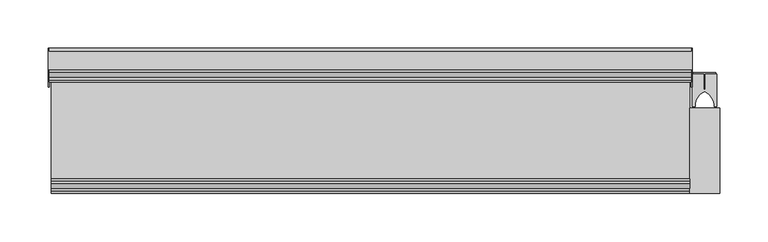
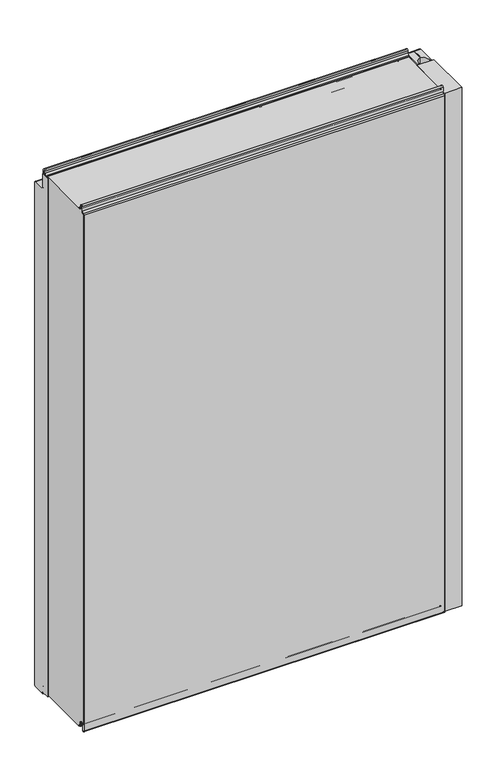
"""IFC4 building model written with IfcOpenShell, lengths in millimetres: plate geometry, Fronttop : Fronttop 150/1000."""

from ifc_helpers import new_model, si_unit, point, frame, frame_2d, origin, origin_with_axes, place, context, project, spatial, polyline, circle_curve, trimmed, segment, composite_curve, outline, extrude, source, transform, mapped, element, save
from ifc_brep_helpers import plane_surface, cylinder_surface, revolved_surface, advanced_brep


def plate_7003c026(model_context):
    return source(origin(), model_context, "Body", "SolidModel", [
        advanced_brep(
        [(-331.5, 124.0, 1008.0), (-331.5, 121.0, 1008.0), (-331.5, 121.0, 1004.0), (-331.5, 117.0, 1000.0), (-331.5, 115.0, 1000.0), (-331.5, 115.0, 1001.0), (-331.5, 117.0, 1001.0), (-331.5, 120.0, 1004.0), (-331.5, 120.0, 1008.0), (-331.5, 125.0, 1008.0), (-331.5, 125.0, 1000.0), (-331.5, 124.0, 1000.0), (331.5, 125.0, 1008.0), (331.5, 120.0, 1008.0), (331.5, 120.0, 1004.0), (331.5, 117.0, 1001.0), (331.5, 115.0, 1001.0), (331.5, 115.0, 1000.0), (331.5, 117.0, 1000.0), (331.5, 121.0, 1004.0), (331.5, 121.0, 1008.0), (331.5, 124.0, 1008.0), (331.5, 124.0, 1000.0), (331.5, 125.0, 1000.0), (-331.5, 117.0, 2.0), (331.5, 117.0, 2.0), (331.5, 115.0, 2.0), (-331.5, 115.0, 2.0), (-331.5, 119.0, 4.0), (331.5, 119.0, 4.0), (-331.5, 119.0, 8.0), (331.5, 119.0, 8.0), (-331.5, 126.0, 8.0), (331.5, 126.0, 8.0), (-331.5, 126.0, 0.0), (331.5, 126.0, 0.0), (-331.5, 129.0, -3.0), (331.5, 129.0, -3.0), (-331.5, 125.0, -3.0), (-332.5, 125.0, -3.0), (-332.5, 147.0, -3.0), (-331.5, 147.0, -3.0), (331.5, 147.0, -3.0), (332.5, 147.0, -3.0), (332.5, 125.0, -3.0), (331.5, 125.0, -3.0), (-331.5, 150.0, 0.0), (331.5, 150.0, 0.0), (-332.5, 150.0, 0.0), (-332.5, 150.0, 969.0), (-331.5, 150.0, 969.0), (331.5, 150.0, 969.0), (332.5, 150.0, 969.0), (332.5, 150.0, 0.0), (-331.5, 147.0, 972.0), (331.5, 147.0, 972.0), (-332.5, 147.0, 972.0), (-332.5, 128.0, 972.0), (-331.5, 128.0, 972.0), (331.5, 128.0, 972.0), (332.5, 128.0, 972.0), (332.5, 147.0, 972.0), (-331.5, 125.0, 975.0), (331.5, 125.0, 975.0), (-332.5, 125.0, 975.0), (-332.5, 125.0, 1000.0), (332.5, 125.0, 1000.0), (332.5, 125.0, 975.0), (-331.5, 124.0, 975.0), (331.5, 124.0, 975.0), (-331.5, 128.0, 971.0), (331.5, 128.0, 971.0), (-331.5, 147.0, 971.0), (331.5, 147.0, 971.0), (-331.5, 149.0, 969.0), (331.5, 149.0, 969.0), (-331.5, 149.0, 0.0), (331.5, 149.0, 0.0), (-331.5, 147.0, -2.0), (331.5, 147.0, -2.0), (-331.5, 129.0, -2.0), (331.5, 129.0, -2.0), (-331.5, 127.0, 0.0), (331.5, 127.0, 0.0), (-331.5, 127.0, 8.0), (331.5, 127.0, 8.0), (-331.5, 118.0, 8.0), (331.5, 118.0, 8.0), (-331.5, 118.0, 4.0), (331.5, 118.0, 4.0), (-331.5, 117.0, 3.0), (331.5, 117.0, 3.0), (-331.5, 115.0, 3.0), (331.5, 115.0, 3.0), (332.5, 110.0, 1000.0), (332.5, 110.0, 0.0), (332.5, 125.0, 0.0), (331.5, 125.0, 0.0), (331.5, 110.0, 0.0), (331.5, 110.0, 1000.0), (-332.5, 125.0, 0.0), (-332.5, 110.0, 0.0), (-332.5, 110.0, 1000.0), (-331.5, 110.0, 1000.0), (-331.5, 110.0, 0.0), (-331.5, 125.0, 0.0)],
        [
            (0, 1, circle_curve(frame((-331.5, 122.5, 1008.0), z_axis=(1.0, 0.0, 0.0), x_axis=(0.0, -1.0, 0.0)), 1.5)),
            (1, 2),
            (2, 3, circle_curve(frame((-331.5, 117.0, 1004.0), z_axis=(-1.0, 0.0, 0.0), x_axis=(0.0, -1.0, 0.0)), 4.0)),
            (3, 4),
            (4, 5),
            (5, 6),
            (6, 7, circle_curve(frame((-331.5, 117.0, 1004.0), z_axis=(1.0, 0.0, 0.0), x_axis=(0.0, -1.0, 0.0)), 3.0)),
            (7, 8),
            (8, 9, circle_curve(frame((-331.5, 122.5, 1008.0), z_axis=(-1.0, 0.0, 0.0), x_axis=(0.0, -1.0, 0.0)), 2.5)),
            (9, 10),
            (10, 11),
            (11, 0),
            (12, 13, circle_curve(frame((331.5, 122.5, 1008.0), z_axis=(1.0, 0.0, 0.0), x_axis=(0.0, -1.0, 0.0)), 2.5)),
            (13, 14),
            (14, 15, circle_curve(frame((331.5, 117.0, 1004.0), z_axis=(-1.0, 0.0, 0.0), x_axis=(0.0, -1.0, 0.0)), 3.0)),
            (15, 16),
            (16, 17),
            (17, 18),
            (18, 19, circle_curve(frame((331.5, 117.0, 1004.0), z_axis=(1.0, 0.0, 0.0), x_axis=(0.0, -1.0, 0.0)), 4.0)),
            (19, 20),
            (20, 21, circle_curve(frame((331.5, 122.5, 1008.0), z_axis=(-1.0, 0.0, 0.0), x_axis=(0.0, -1.0, 0.0)), 1.5)),
            (21, 22),
            (22, 23),
            (23, 12),
            (24, 25),
            (25, 26),
            (26, 27),
            (27, 24),
            (24, 28, circle_curve(frame((-331.5, 117.0, 4.0), z_axis=(1.0, 0.0, 0.0), x_axis=(0.0, -1.0, 0.0)), 2.0)),
            (28, 29),
            (29, 25, circle_curve(frame((331.5, 117.0, 4.0), z_axis=(-1.0, 0.0, 0.0), x_axis=(0.0, -1.0, 0.0)), 2.0)),
            (28, 30),
            (30, 31),
            (31, 29),
            (30, 32, circle_curve(frame((-331.5, 122.5, 8.0), z_axis=(-1.0, 0.0, 0.0), x_axis=(0.0, -1.0, 0.0)), 3.5)),
            (32, 33),
            (33, 31, circle_curve(frame((331.5, 122.5, 8.0), z_axis=(1.0, 0.0, 0.0), x_axis=(0.0, -1.0, 0.0)), 3.5)),
            (32, 34),
            (34, 35),
            (35, 33),
            (34, 36, circle_curve(frame((-331.5, 129.0, 0.0), z_axis=(1.0, 0.0, 0.0), x_axis=(0.0, -1.0, 0.0)), 3.0)),
            (36, 37),
            (37, 35, circle_curve(frame((331.5, 129.0, 0.0), z_axis=(-1.0, 0.0, 0.0), x_axis=(0.0, -1.0, 0.0)), 3.0)),
            (36, 38),
            (38, 39),
            (39, 40),
            (40, 41),
            (41, 42),
            (42, 43),
            (43, 44),
            (44, 45),
            (45, 37),
            (41, 46, circle_curve(frame((-331.5, 147.0, 0.0), z_axis=(1.0, 0.0, 0.0), x_axis=(0.0, -1.0, 0.0)), 3.0)),
            (46, 47),
            (47, 42, circle_curve(frame((331.5, 147.0, 0.0), z_axis=(-1.0, 0.0, 0.0), x_axis=(0.0, -1.0, 0.0)), 3.0)),
            (46, 48),
            (48, 49),
            (49, 50),
            (50, 51),
            (51, 52),
            (52, 53),
            (53, 47),
            (50, 54, circle_curve(frame((-331.5, 147.0, 969.0), z_axis=(1.0, 0.0, 0.0), x_axis=(0.0, -1.0, 0.0)), 3.0)),
            (54, 55),
            (55, 51, circle_curve(frame((331.5, 147.0, 969.0), z_axis=(-1.0, 0.0, 0.0), x_axis=(0.0, -1.0, 0.0)), 3.0)),
            (54, 56),
            (56, 57),
            (57, 58),
            (58, 59),
            (59, 60),
            (60, 61),
            (61, 55),
            (58, 62, circle_curve(frame((-331.5, 128.0, 975.0), z_axis=(-1.0, 0.0, 0.0), x_axis=(0.0, -1.0, 0.0)), 3.0)),
            (62, 63),
            (63, 59, circle_curve(frame((331.5, 128.0, 975.0), z_axis=(1.0, 0.0, 0.0), x_axis=(0.0, -1.0, 0.0)), 3.0)),
            (62, 64),
            (64, 65),
            (65, 10),
            (9, 12),
            (23, 66),
            (66, 67),
            (67, 63),
            (8, 13),
            (7, 14),
            (6, 15),
            (5, 16),
            (4, 17),
            (4, 3),
            (3, 18),
            (18, 17),
            (2, 19),
            (1, 20),
            (0, 21),
            (11, 68),
            (68, 69),
            (69, 22),
            (68, 70, circle_curve(frame((-331.5, 128.0, 975.0), z_axis=(1.0, 0.0, 0.0), x_axis=(0.0, -1.0, 0.0)), 4.0)),
            (70, 71),
            (71, 69, circle_curve(frame((331.5, 128.0, 975.0), z_axis=(-1.0, 0.0, 0.0), x_axis=(0.0, -1.0, 0.0)), 4.0)),
            (70, 72),
            (72, 73),
            (73, 71),
            (72, 74, circle_curve(frame((-331.5, 147.0, 969.0), z_axis=(-1.0, 0.0, 0.0), x_axis=(0.0, -1.0, 0.0)), 2.0)),
            (74, 75),
            (75, 73, circle_curve(frame((331.5, 147.0, 969.0), z_axis=(1.0, 0.0, 0.0), x_axis=(0.0, -1.0, 0.0)), 2.0)),
            (74, 76),
            (76, 77),
            (77, 75),
            (76, 78, circle_curve(frame((-331.5, 147.0, 0.0), z_axis=(-1.0, 0.0, 0.0), x_axis=(0.0, -1.0, 0.0)), 2.0)),
            (78, 79),
            (79, 77, circle_curve(frame((331.5, 147.0, 0.0), z_axis=(1.0, 0.0, 0.0), x_axis=(0.0, -1.0, 0.0)), 2.0)),
            (78, 80),
            (80, 81),
            (81, 79),
            (80, 82, circle_curve(frame((-331.5, 129.0, 0.0), z_axis=(-1.0, 0.0, 0.0), x_axis=(0.0, -1.0, 0.0)), 2.0)),
            (82, 83),
            (83, 81, circle_curve(frame((331.5, 129.0, 0.0), z_axis=(1.0, 0.0, 0.0), x_axis=(0.0, -1.0, 0.0)), 2.0)),
            (82, 84),
            (84, 85),
            (85, 83),
            (84, 86, circle_curve(frame((-331.5, 122.5, 8.0), z_axis=(1.0, 0.0, 0.0), x_axis=(0.0, -1.0, 0.0)), 4.5)),
            (86, 87),
            (87, 85, circle_curve(frame((331.5, 122.5, 8.0), z_axis=(-1.0, 0.0, 0.0), x_axis=(0.0, -1.0, 0.0)), 4.5)),
            (86, 88),
            (88, 89),
            (89, 87),
            (88, 90, circle_curve(frame((-331.5, 117.0, 4.0), z_axis=(-1.0, 0.0, 0.0), x_axis=(0.0, -1.0, 0.0)), 1.0)),
            (90, 91),
            (91, 89, circle_curve(frame((331.5, 117.0, 4.0), z_axis=(1.0, 0.0, 0.0), x_axis=(0.0, -1.0, 0.0)), 1.0)),
            (90, 92),
            (92, 93),
            (93, 91),
            (26, 93),
            (92, 27),
            (66, 94),
            (94, 95),
            (95, 96),
            (96, 44),
            (43, 53, circle_curve(frame((332.5, 147.0, 0.0), z_axis=(1.0, 0.0, 0.0), x_axis=(0.0, 1.0, 0.0)), 3.0)),
            (52, 61, circle_curve(frame((332.5, 147.0, 969.0), z_axis=(1.0, 0.0, 0.0), x_axis=(0.0, 1.0, 0.0)), 3.0)),
            (60, 67, circle_curve(frame((332.5, 128.0, 975.0), z_axis=(-1.0, 0.0, 0.0), x_axis=(0.0, 1.0, 0.0)), 3.0)),
            (45, 97),
            (97, 98),
            (98, 99),
            (99, 17),
            (18, 22),
            (99, 94),
            (98, 95),
            (97, 96),
            (64, 57, circle_curve(frame((-332.5, 128.0, 975.0), z_axis=(1.0, 0.0, 0.0), x_axis=(0.0, 1.0, 0.0)), 3.0)),
            (56, 49, circle_curve(frame((-332.5, 147.0, 969.0), z_axis=(-1.0, 0.0, 0.0), x_axis=(0.0, 1.0, 0.0)), 3.0)),
            (48, 40, circle_curve(frame((-332.5, 147.0, 0.0), z_axis=(-1.0, 0.0, 0.0), x_axis=(0.0, 1.0, 0.0)), 3.0)),
            (39, 100),
            (100, 101),
            (101, 102),
            (102, 65),
            (103, 104),
            (104, 105),
            (105, 38),
            (11, 3),
            (4, 103),
            (102, 103),
            (101, 104),
            (100, 105),
        ],
        [
            plane_surface(frame((-331.5, 0.0, 0.0), z_axis=(-1.0, 0.0, 0.0), x_axis=(0.0, 0.0, 1.0))),
            plane_surface(frame((331.5, 0.0, 0.0), z_axis=(1.0, 0.0, 0.0), x_axis=(0.0, 0.0, 1.0))),
            plane_surface(frame((-331.5, 117.0, 2.0), z_axis=(0.0, 0.0, -1.0), x_axis=(1.0, 0.0, 0.0))),
            cylinder_surface(frame((-331.5, 117.0, 4.0), z_axis=(-1.0, 0.0, 0.0), x_axis=(0.0, -1.0, 0.0)), 2.0),
            plane_surface(frame((-331.5, 119.0, 8.0), z_axis=(0.0, 1.0, 0.0), x_axis=(1.0, 0.0, 0.0))),
            revolved_surface(polyline([(331.5, 119.0, 8.0), (-331.5, 119.0, 8.0)]), (-331.5, 122.5, 8.0), (1.0, 0.0, 0.0)),
            plane_surface(frame((-331.5, 126.0, 0.0), z_axis=(0.0, -1.0, 0.0), x_axis=(1.0, 0.0, 0.0))),
            cylinder_surface(frame((-331.5, 129.0, 0.0), z_axis=(-1.0, 0.0, 0.0), x_axis=(0.0, -1.0, 0.0)), 3.0),
            plane_surface(frame((-331.5, 147.0, -3.0), z_axis=(0.0, 0.0, -1.0), x_axis=(1.0, 0.0, 0.0))),
            cylinder_surface(frame((-331.5, 147.0, 0.0), z_axis=(-1.0, 0.0, 0.0), x_axis=(0.0, -1.0, 0.0)), 3.0),
            plane_surface(frame((-331.5, 150.0, 969.0), z_axis=(0.0, 1.0, 0.0), x_axis=(1.0, 0.0, 0.0))),
            cylinder_surface(frame((-331.5, 147.0, 969.0), z_axis=(-1.0, 0.0, 0.0), x_axis=(0.0, -1.0, 0.0)), 3.0),
            plane_surface(frame((-331.5, 128.0, 972.0), z_axis=(0.0, 0.0, 1.0), x_axis=(1.0, 0.0, 0.0))),
            revolved_surface(polyline([(331.5, 125.0, 975.0), (-331.5, 125.0, 975.0)]), (-331.5, 128.0, 975.0), (1.0, 0.0, 0.0)),
            plane_surface(frame((-331.5, 125.0, 1008.0), z_axis=(0.0, 1.0, 0.0), x_axis=(1.0, 0.0, 0.0))),
            cylinder_surface(frame((-331.5, 122.5, 1008.0), z_axis=(-1.0, 0.0, 0.0), x_axis=(0.0, -1.0, 0.0)), 2.5),
            plane_surface(frame((-331.5, 120.0, 1004.0), z_axis=(0.0, -1.0, 0.0), x_axis=(1.0, 0.0, 0.0))),
            revolved_surface(polyline([(331.5, 114.0, 1004.0), (-331.5, 114.0, 1004.0)]), (-331.5, 117.0, 1004.0), (1.0, 0.0, 0.0)),
            plane_surface(frame((-331.5, 115.0, 1001.0), z_axis=(0.0, 0.0, 1.0), x_axis=(1.0, 0.0, 0.0))),
            plane_surface(frame((-331.5, 115.0, 1000.0), z_axis=(0.0, -1.0, 0.0), x_axis=(1.0, 0.0, 0.0))),
            plane_surface(frame((-331.5, 117.0, 1000.0), z_axis=(0.0, 0.0, -1.0), x_axis=(1.0, 0.0, 0.0))),
            cylinder_surface(frame((-331.5, 117.0, 1004.0), z_axis=(-1.0, 0.0, 0.0), x_axis=(0.0, -1.0, 0.0)), 4.0),
            plane_surface(frame((-331.5, 121.0, 1008.0), z_axis=(0.0, 1.0, 0.0), x_axis=(1.0, 0.0, 0.0))),
            revolved_surface(polyline([(331.5, 121.0, 1008.0), (-331.5, 121.0, 1008.0)]), (-331.5, 122.5, 1008.0), (1.0, 0.0, 0.0)),
            plane_surface(frame((-331.5, 124.0, 975.0), z_axis=(0.0, -1.0, 0.0), x_axis=(1.0, 0.0, 0.0))),
            cylinder_surface(frame((-331.5, 128.0, 975.0), z_axis=(-1.0, 0.0, 0.0), x_axis=(0.0, -1.0, 0.0)), 4.0),
            plane_surface(frame((-331.5, 147.0, 971.0), z_axis=(0.0, 0.0, -1.0), x_axis=(1.0, 0.0, 0.0))),
            revolved_surface(polyline([(331.5, 145.0, 969.0), (-331.5, 145.0, 969.0)]), (-331.5, 147.0, 969.0), (1.0, 0.0, 0.0)),
            plane_surface(frame((-331.5, 149.0, 0.0), z_axis=(0.0, -1.0, 0.0), x_axis=(1.0, 0.0, 0.0))),
            revolved_surface(polyline([(331.5, 145.0, 0.0), (-331.5, 145.0, 0.0)]), (-331.5, 147.0, 0.0), (1.0, 0.0, 0.0)),
            plane_surface(frame((-331.5, 129.0, -2.0), z_axis=(0.0, 0.0, 1.0), x_axis=(1.0, 0.0, 0.0))),
            revolved_surface(polyline([(331.5, 127.0, 0.0), (-331.5, 127.0, 0.0)]), (-331.5, 129.0, 0.0), (1.0, 0.0, 0.0)),
            plane_surface(frame((-331.5, 127.0, 8.0), z_axis=(0.0, 1.0, 0.0), x_axis=(1.0, 0.0, 0.0))),
            cylinder_surface(frame((-331.5, 122.5, 8.0), z_axis=(-1.0, 0.0, 0.0), x_axis=(0.0, -1.0, 0.0)), 4.5),
            plane_surface(frame((-331.5, 118.0, 4.0), z_axis=(0.0, -1.0, 0.0), x_axis=(1.0, 0.0, 0.0))),
            revolved_surface(polyline([(331.5, 116.0, 4.0), (-331.5, 116.0, 4.0)]), (-331.5, 117.0, 4.0), (1.0, 0.0, 0.0)),
            plane_surface(frame((-331.5, 115.0, 3.0), z_axis=(0.0, 0.0, 1.0), x_axis=(1.0, 0.0, 0.0))),
            plane_surface(frame((-331.5, 115.0, 2.0), z_axis=(0.0, -1.0, 0.0), x_axis=(1.0, 0.0, 0.0))),
            plane_surface(frame((332.5, 125.0, 1000.0), z_axis=(1.0, 0.0, 0.0), x_axis=(0.0, -1.0, 0.0))),
            plane_surface(frame((331.5, 125.0, 1000.0), z_axis=(-1.0, 0.0, 0.0), x_axis=(0.0, 1.0, 0.0))),
            plane_surface(frame((332.5, 125.0, 1000.0), z_axis=(0.0, 0.0, 1.0), x_axis=(-1.0, 0.0, 0.0))),
            plane_surface(frame((332.5, 110.0, 1000.0), z_axis=(0.0, -1.0, 0.0), x_axis=(-1.0, 0.0, 0.0))),
            plane_surface(frame((332.5, 110.0, 0.0), z_axis=(0.0, 0.0, -1.0), x_axis=(-1.0, 0.0, 0.0))),
            cylinder_surface(frame((331.5, 147.0, 0.0), z_axis=(1.0, 0.0, 0.0), x_axis=(0.0, 1.0, 0.0)), 3.0),
            cylinder_surface(frame((331.5, 147.0, 969.0), z_axis=(1.0, 0.0, 0.0), x_axis=(0.0, 1.0, 0.0)), 3.0),
            revolved_surface(polyline([(331.5, 131.0, 975.0), (332.5, 131.0, 975.0)]), (331.5, 128.0, 975.0), (-1.0, 0.0, 0.0)),
            plane_surface(frame((-332.5, 125.0, 1000.0), z_axis=(-1.0, 0.0, 0.0), x_axis=(0.0, 1.0, 0.0))),
            plane_surface(frame((-331.5, 125.0, 1000.0), z_axis=(1.0, 0.0, 0.0), x_axis=(0.0, -1.0, 0.0))),
            plane_surface(frame((-331.5, 125.0, 1000.0), z_axis=(0.0, 0.0, 1.0), x_axis=(-1.0, 0.0, 0.0))),
            plane_surface(frame((-331.5, 110.0, 1000.0), z_axis=(0.0, -1.0, 0.0), x_axis=(-1.0, 0.0, 0.0))),
            plane_surface(frame((-331.5, 110.0, 0.0), z_axis=(0.0, 0.0, -1.0), x_axis=(-1.0, 0.0, 0.0))),
            cylinder_surface(frame((-332.5, 147.0, 0.0), z_axis=(1.0, 0.0, 0.0), x_axis=(0.0, 1.0, 0.0)), 3.0),
            cylinder_surface(frame((-332.5, 147.0, 969.0), z_axis=(1.0, 0.0, 0.0), x_axis=(0.0, 1.0, 0.0)), 3.0),
            revolved_surface(polyline([(-332.5, 131.0, 975.0), (-331.5, 131.0, 975.0)]), (-332.5, 128.0, 975.0), (-1.0, 0.0, 0.0)),
            plane_surface(frame((332.5, 125.0, 0.0), z_axis=(0.0, -1.0, 0.0), x_axis=(-1.0, 0.0, 0.0))),
            plane_surface(frame((-331.5, 125.0, 0.0), z_axis=(0.0, -1.0, 0.0), x_axis=(-1.0, 0.0, 0.0))),
        ],
        [
            (0, [[1, 2, 3, 4, 5, 6, 7, 8, 9, 10, 11, 12]]),
            (1, [[13, 14, 15, 16, 17, 18, 19, 20, 21, 22, 23, 24]]),
            (2, [[25, 26, 27, 28]]),
            (3, [[-25, 29, 30, 31]]),
            (4, [[-30, 32, 33, 34]]),
            (5, [[-33, 35, 36, 37]]),
            (6, [[-36, 38, 39, 40]]),
            (7, [[-39, 41, 42, 43]]),
            (8, [[-42, 44, 45, 46, 47, 48, 49, 50, 51, 52]]),
            (9, [[-48, 53, 54, 55]]),
            (10, [[-54, 56, 57, 58, 59, 60, 61, 62]]),
            (11, [[-59, 63, 64, 65]]),
            (12, [[-64, 66, 67, 68, 69, 70, 71, 72]]),
            (13, [[-69, 73, 74, 75]]),
            (14, [[-74, 76, 77, 78, -10, 79, -24, 80, 81, 82]]),
            (15, [[-9, 83, -13, -79]]),
            (16, [[-8, 84, -14, -83]]),
            (17, [[-7, 85, -15, -84]]),
            (18, [[-6, 86, -16, -85]]),
            (19, [[-5, 87, -17, -86]]),
            (20, [[-87, 88, 89, 90]]),
            (21, [[-3, 91, -19, -89]]),
            (22, [[-2, 92, -20, -91]]),
            (23, [[-1, 93, -21, -92]]),
            (24, [[-93, -12, 94, 95, 96, -22]]),
            (25, [[-95, 97, 98, 99]]),
            (26, [[-98, 100, 101, 102]]),
            (27, [[-101, 103, 104, 105]]),
            (28, [[-104, 106, 107, 108]]),
            (29, [[-107, 109, 110, 111]]),
            (30, [[-110, 112, 113, 114]]),
            (31, [[-113, 115, 116, 117]]),
            (32, [[-116, 118, 119, 120]]),
            (33, [[-119, 121, 122, 123]]),
            (34, [[-122, 124, 125, 126]]),
            (35, [[-125, 127, 128, 129]]),
            (36, [[-128, 130, 131, 132]]),
            (37, [[-27, 133, -131, 134]]),
            (38, [[135, 136, 137, 138, -50, 139, -61, 140, -71, 141, -81]]),
            (39, [[142, 143, 144, 145, -90, 146, -96, -99, -102, -105, -108, -111, -114, -117, -120, -123, -126, -129, -132, -133, -26, -31, -34, -37, -40, -43, -52]]),
            (40, [[-135, -80, -23, -146, -18, -145, 147]]),
            (41, [[-136, -147, -144, 148]]),
            (42, [[-137, -148, -143, 149]]),
            (43, [[-139, -49, -55, -62]]),
            (44, [[-140, -60, -65, -72]]),
            (45, [[-141, -70, -75, -82]]),
            (46, [[-77, 150, -67, 151, -57, 152, -46, 153, 154, 155, 156]]),
            (47, [[157, 158, 159, -44, -41, -38, -35, -32, -29, -28, -134, -130, -127, -124, -121, -118, -115, -112, -109, -106, -103, -100, -97, -94, 160, -88, 161]]),
            (48, [[-156, 162, -161, -4, -160, -11, -78]]),
            (49, [[-155, 163, -157, -162]]),
            (50, [[-154, 164, -158, -163]]),
            (51, [[-152, -56, -53, -47]]),
            (52, [[-151, -66, -63, -58]]),
            (53, [[-150, -76, -73, -68]]),
            (54, [[-138, -149, -142, -51]]),
            (55, [[-153, -45, -159, -164]]),
        ],
    ),
        extrude(outline(composite_curve([segment(polyline([(332.4998455, 123.5), (344.25, 123.5), (344.25, 107.5), (345.75, 107.5), (345.75, 123.5), (357.5001545, 123.5), (357.5001545, 90.0), (354.75, 90.0), (354.75, 92.5)]), True, "CONTINUOUS"), segment(trimmed(circle_curve(frame_2d((336.9661979, 89.3183984)), 18.0661619), [point((354.75, 92.5))], [point((345.0, 105.5))], True, "CARTESIAN"), True, "CONTINUOUS"), segment(trimmed(circle_curve(frame_2d((353.0338021, 89.3183984)), 18.0661619), [point((345.0, 105.5))], [point((335.25, 92.5))], True, "CARTESIAN"), True, "CONTINUOUS"), segment(polyline([(335.25, 92.5), (335.25, 90.0), (332.4998455, 90.0), (332.4998455, 123.5)]), True, "CONTINUOUS")], self_intersect=False)), origin_with_axes(), (0.0, 0.0, 1.0), 1000.0),
        extrude(outline(polyline([(360.5, 0.0), (329.5, 0.0), (329.5, 88.0), (360.5, 88.0), (360.5, 0.0)])), origin_with_axes(), (0.0, 0.0, 1.0), 1000.0),
        extrude(outline(polyline([(333.4948846, 125.0), (356.5051154, 125.0), (356.5051154, 123.5), (345.6502496, 123.5), (345.6502496, 109.0759655), (344.35, 109.0759655), (344.35, 123.5), (333.4948846, 123.5), (333.4948846, 125.0)])), origin_with_axes(), (0.0, 0.0, 1.0), 1000.0),
        advanced_brep(
        [(-329.5, 13.0, 1001.0), (-329.5, 15.0, 1001.0), (-329.5, 15.0, 1000.0), (-329.5, 13.0, 1000.0), (-329.5, 9.0, 1004.0), (-329.5, 9.0, 1008.0), (-329.5, 6.0, 1008.0), (-329.5, 6.0, 999.5), (-329.5, 2.1134897, 996.0214069), (-329.5, 1.0, 995.0), (-329.5, 1.0, -0.5), (-329.5, 3.0, -0.5), (-329.5, 3.0, 8.0), (-329.5, 12.0, 8.0), (-329.5, 12.0, 4.0), (-329.5, 13.0, 3.0), (-329.5, 15.0, 3.0), (-329.5, 15.0, 2.0), (-329.5, 13.0, 2.0), (-329.5, 11.0, 4.0), (-329.5, 11.0, 8.0), (-329.5, 4.0, 8.0), (-329.5, 4.0, -0.5), (-329.5, 0.0, -0.5), (-329.5, 0.0, 995.0), (-329.5, 2.220863, 996.9877675), (-329.5, 5.0, 999.5), (-329.5, 5.0, 1008.0), (-329.5, 10.0, 1008.0), (-329.5, 10.0, 1004.0), (329.5, 13.0, 1001.0), (329.5, 10.0, 1004.0), (329.5, 10.0, 1008.0), (329.5, 5.0, 1008.0), (329.5, 5.0, 999.5), (329.5, 2.2239212, 997.0152907), (329.5, 0.0, 995.0), (329.5, 0.0, -0.5), (329.5, 4.0, -0.5), (329.5, 4.0, 8.0), (329.5, 11.0, 8.0), (329.5, 11.0, 4.0), (329.5, 13.0, 2.0), (329.5, 15.0, 2.0), (329.5, 15.0, 3.0), (329.5, 13.0, 3.0), (329.5, 12.0, 4.0), (329.5, 12.0, 8.0), (329.5, 3.0, 8.0), (329.5, 3.0, -0.5), (329.5, 1.0, -0.5), (329.5, 1.0, 995.0), (329.5, 2.1104315, 995.9938837), (329.5, 6.0, 999.5), (329.5, 6.0, 1008.0), (329.5, 9.0, 1008.0), (329.5, 9.0, 1004.0), (329.5, 13.0, 1000.0), (329.5, 15.0, 1000.0), (329.5, 15.0, 1001.0)],
        [
            (0, 1),
            (1, 2),
            (2, 3),
            (3, 4, circle_curve(frame((-329.5, 13.0, 1004.0), z_axis=(-1.0, 0.0, 0.0), x_axis=(0.0, -1.0, 0.0)), 4.0)),
            (4, 5),
            (5, 6, circle_curve(frame((-329.5, 7.5, 1008.0), z_axis=(1.0, 0.0, 0.0), x_axis=(0.0, -1.0, 0.0)), 1.5)),
            (6, 7),
            (7, 8, circle_curve(frame((-329.5, 2.5, 999.5), z_axis=(-1.0, 0.0, 0.0), x_axis=(0.0, -1.0, 0.0)), 3.5)),
            (8, 9, circle_curve(frame((-329.5, 2.0, 995.0), z_axis=(1.0, 0.0, 0.0), x_axis=(0.0, -1.0, 0.0)), 1.0)),
            (9, 10),
            (10, 11, circle_curve(frame((-329.5, 2.0, -0.5), z_axis=(1.0, 0.0, 0.0), x_axis=(0.0, -1.0, 0.0)), 1.0)),
            (11, 12),
            (12, 13, circle_curve(frame((-329.5, 7.5, 8.0), z_axis=(-1.0, 0.0, 0.0), x_axis=(0.0, -1.0, 0.0)), 4.5)),
            (13, 14),
            (14, 15, circle_curve(frame((-329.5, 13.0, 4.0), z_axis=(1.0, 0.0, 0.0), x_axis=(0.0, -1.0, 0.0)), 1.0)),
            (15, 16),
            (16, 17),
            (17, 18),
            (18, 19, circle_curve(frame((-329.5, 13.0, 4.0), z_axis=(-1.0, 0.0, 0.0), x_axis=(0.0, -1.0, 0.0)), 2.0)),
            (19, 20),
            (20, 21, circle_curve(frame((-329.5, 7.5, 8.0), z_axis=(1.0, 0.0, 0.0), x_axis=(0.0, -1.0, 0.0)), 3.5)),
            (21, 22),
            (22, 23, circle_curve(frame((-329.5, 2.0, -0.5), z_axis=(-1.0, 0.0, 0.0), x_axis=(0.0, -1.0, 0.0)), 2.0)),
            (23, 24),
            (24, 25, circle_curve(frame((-329.5, 2.0, 995.0), z_axis=(-1.0, 0.0, 0.0), x_axis=(0.0, -1.0, 0.0)), 2.0)),
            (25, 26, circle_curve(frame((-329.5, 2.5, 999.5), z_axis=(1.0, 0.0, 0.0), x_axis=(0.0, -1.0, 0.0)), 2.5)),
            (26, 27),
            (27, 28, circle_curve(frame((-329.5, 7.5, 1008.0), z_axis=(-1.0, 0.0, 0.0), x_axis=(0.0, -1.0, 0.0)), 2.5)),
            (28, 29),
            (29, 0, circle_curve(frame((-329.5, 13.0, 1004.0), z_axis=(1.0, 0.0, 0.0), x_axis=(0.0, -1.0, 0.0)), 3.0)),
            (30, 31, circle_curve(frame((329.5, 13.0, 1004.0), z_axis=(-1.0, 0.0, 0.0), x_axis=(0.0, -1.0, 0.0)), 3.0)),
            (31, 32),
            (32, 33, circle_curve(frame((329.5, 7.5, 1008.0), z_axis=(1.0, 0.0, 0.0), x_axis=(0.0, -1.0, 0.0)), 2.5)),
            (33, 34),
            (34, 35, circle_curve(frame((329.5, 2.5, 999.5), z_axis=(-1.0, 0.0, 0.0), x_axis=(0.0, -1.0, 0.0)), 2.5)),
            (35, 36, circle_curve(frame((329.5, 2.0, 995.0), z_axis=(1.0, 0.0, 0.0), x_axis=(0.0, -1.0, 0.0)), 2.0)),
            (36, 37),
            (37, 38, circle_curve(frame((329.5, 2.0, -0.5), z_axis=(1.0, 0.0, 0.0), x_axis=(0.0, -1.0, 0.0)), 2.0)),
            (38, 39),
            (39, 40, circle_curve(frame((329.5, 7.5, 8.0), z_axis=(-1.0, 0.0, 0.0), x_axis=(0.0, -1.0, 0.0)), 3.5)),
            (40, 41),
            (41, 42, circle_curve(frame((329.5, 13.0, 4.0), z_axis=(1.0, 0.0, 0.0), x_axis=(0.0, -1.0, 0.0)), 2.0)),
            (42, 43),
            (43, 44),
            (44, 45),
            (45, 46, circle_curve(frame((329.5, 13.0, 4.0), z_axis=(-1.0, 0.0, 0.0), x_axis=(0.0, -1.0, 0.0)), 1.0)),
            (46, 47),
            (47, 48, circle_curve(frame((329.5, 7.5, 8.0), z_axis=(1.0, 0.0, 0.0), x_axis=(0.0, -1.0, 0.0)), 4.5)),
            (48, 49),
            (49, 50, circle_curve(frame((329.5, 2.0, -0.5), z_axis=(-1.0, 0.0, 0.0), x_axis=(0.0, -1.0, 0.0)), 1.0)),
            (50, 51),
            (51, 52, circle_curve(frame((329.5, 2.0, 995.0), z_axis=(-1.0, 0.0, 0.0), x_axis=(0.0, -1.0, 0.0)), 1.0)),
            (52, 53, circle_curve(frame((329.5, 2.5, 999.5), z_axis=(1.0, 0.0, 0.0), x_axis=(0.0, -1.0, 0.0)), 3.5)),
            (53, 54),
            (54, 55, circle_curve(frame((329.5, 7.5, 1008.0), z_axis=(-1.0, 0.0, 0.0), x_axis=(0.0, -1.0, 0.0)), 1.5)),
            (55, 56),
            (56, 57, circle_curve(frame((329.5, 13.0, 1004.0), z_axis=(1.0, 0.0, 0.0), x_axis=(0.0, -1.0, 0.0)), 4.0)),
            (57, 58),
            (58, 59),
            (59, 30),
            (0, 30),
            (59, 1),
            (58, 2),
            (57, 3),
            (56, 4),
            (55, 5),
            (54, 6),
            (53, 7),
            (52, 8),
            (51, 9),
            (50, 10),
            (49, 11),
            (48, 12),
            (47, 13),
            (46, 14),
            (45, 15),
            (44, 16),
            (43, 17),
            (42, 18),
            (41, 19),
            (40, 20),
            (39, 21),
            (38, 22),
            (37, 23),
            (36, 24),
            (35, 25),
            (34, 26),
            (33, 27),
            (32, 28),
            (31, 29),
        ],
        [
            plane_surface(frame((-329.5, 0.0, 0.0), z_axis=(-1.0, 0.0, 0.0), x_axis=(0.0, 0.0, 1.0))),
            plane_surface(frame((329.5, 0.0, 0.0), z_axis=(1.0, 0.0, 0.0), x_axis=(0.0, 0.0, 1.0))),
            plane_surface(frame((-329.5, 13.0, 1001.0), z_axis=(0.0, 0.0, 1.0), x_axis=(1.0, 0.0, 0.0))),
            plane_surface(frame((-329.5, 15.0, 1001.0), z_axis=(0.0, 1.0, 0.0), x_axis=(1.0, 0.0, 0.0))),
            plane_surface(frame((-329.5, 15.0, 1000.0), z_axis=(0.0, 0.0, -1.0), x_axis=(1.0, 0.0, 0.0))),
            cylinder_surface(frame((-329.5, 13.0, 1004.0), z_axis=(-1.0, 0.0, 0.0), x_axis=(0.0, -1.0, 0.0)), 4.0),
            plane_surface(frame((-329.5, 9.0, 1004.0), z_axis=(0.0, -1.0, 0.0), x_axis=(1.0, 0.0, 0.0))),
            revolved_surface(polyline([(329.5, 6.0, 1008.0), (-329.5, 6.0, 1008.0)]), (-329.5, 7.5, 1008.0), (1.0, 0.0, 0.0)),
            plane_surface(frame((-329.5, 6.0, 1008.0), z_axis=(0.0, 1.0, 0.0), x_axis=(1.0, 0.0, 0.0))),
            cylinder_surface(frame((-329.5, 2.5, 999.5), z_axis=(-1.0, 0.0, 0.0), x_axis=(0.0, -1.0, 0.0)), 3.5),
            revolved_surface(polyline([(329.5, 1.0, 995.0), (-329.5, 1.0, 995.0)]), (-329.5, 2.0, 995.0), (1.0, 0.0, 0.0)),
            plane_surface(frame((-329.5, 1.0, 995.0), z_axis=(0.0, 1.0, 0.0), x_axis=(1.0, 0.0, 0.0))),
            revolved_surface(polyline([(329.5, 1.0, -0.5), (-329.5, 1.0, -0.5)]), (-329.5, 2.0, -0.5), (1.0, 0.0, 0.0)),
            plane_surface(frame((-329.5, 3.0, -0.5), z_axis=(0.0, -1.0, 0.0), x_axis=(1.0, 0.0, 0.0))),
            cylinder_surface(frame((-329.5, 7.5, 8.0), z_axis=(-1.0, 0.0, 0.0), x_axis=(0.0, -1.0, 0.0)), 4.5),
            plane_surface(frame((-329.5, 12.0, 8.0), z_axis=(0.0, 1.0, 0.0), x_axis=(1.0, 0.0, 0.0))),
            revolved_surface(polyline([(329.5, 12.0, 4.0), (-329.5, 12.0, 4.0)]), (-329.5, 13.0, 4.0), (1.0, 0.0, 0.0)),
            plane_surface(frame((-329.5, 13.0, 3.0), z_axis=(0.0, 0.0, 1.0), x_axis=(1.0, 0.0, 0.0))),
            plane_surface(frame((-329.5, 15.0, 3.0), z_axis=(0.0, 1.0, 0.0), x_axis=(1.0, 0.0, 0.0))),
            plane_surface(frame((-329.5, 15.0, 2.0), z_axis=(0.0, 0.0, -1.0), x_axis=(1.0, 0.0, 0.0))),
            cylinder_surface(frame((-329.5, 13.0, 4.0), z_axis=(-1.0, 0.0, 0.0), x_axis=(0.0, -1.0, 0.0)), 2.0),
            plane_surface(frame((-329.5, 11.0, 4.0), z_axis=(0.0, -1.0, 0.0), x_axis=(1.0, 0.0, 0.0))),
            revolved_surface(polyline([(329.5, 4.0, 8.0), (-329.5, 4.0, 8.0)]), (-329.5, 7.5, 8.0), (1.0, 0.0, 0.0)),
            plane_surface(frame((-329.5, 4.0, 8.0), z_axis=(0.0, 1.0, 0.0), x_axis=(1.0, 0.0, 0.0))),
            cylinder_surface(frame((-329.5, 2.0, -0.5), z_axis=(-1.0, 0.0, 0.0), x_axis=(0.0, -1.0, 0.0)), 2.0),
            plane_surface(frame((-329.5, 0.0, -0.5), z_axis=(0.0, -1.0, 0.0), x_axis=(1.0, 0.0, 0.0))),
            cylinder_surface(frame((-329.5, 2.0, 995.0), z_axis=(-1.0, 0.0, 0.0), x_axis=(0.0, -1.0, 0.0)), 2.0),
            revolved_surface(polyline([(329.5, 0.0, 999.5), (-329.5, 0.0, 999.5)]), (-329.5, 2.5, 999.5), (1.0, 0.0, 0.0)),
            plane_surface(frame((-329.5, 5.0, 999.5), z_axis=(0.0, -1.0, 0.0), x_axis=(1.0, 0.0, 0.0))),
            cylinder_surface(frame((-329.5, 7.5, 1008.0), z_axis=(-1.0, 0.0, 0.0), x_axis=(0.0, -1.0, 0.0)), 2.5),
            plane_surface(frame((-329.5, 10.0, 1008.0), z_axis=(0.0, 1.0, 0.0), x_axis=(1.0, 0.0, 0.0))),
            revolved_surface(polyline([(329.5, 10.0, 1004.0), (-329.5, 10.0, 1004.0)]), (-329.5, 13.0, 1004.0), (1.0, 0.0, 0.0)),
        ],
        [
            (0, [[1, 2, 3, 4, 5, 6, 7, 8, 9, 10, 11, 12, 13, 14, 15, 16, 17, 18, 19, 20, 21, 22, 23, 24, 25, 26, 27, 28, 29, 30]]),
            (1, [[31, 32, 33, 34, 35, 36, 37, 38, 39, 40, 41, 42, 43, 44, 45, 46, 47, 48, 49, 50, 51, 52, 53, 54, 55, 56, 57, 58, 59, 60]]),
            (2, [[-1, 61, -60, 62]]),
            (3, [[-2, -62, -59, 63]]),
            (4, [[-3, -63, -58, 64]]),
            (5, [[-4, -64, -57, 65]]),
            (6, [[-5, -65, -56, 66]]),
            (7, [[-6, -66, -55, 67]]),
            (8, [[-7, -67, -54, 68]]),
            (9, [[-8, -68, -53, 69]]),
            (10, [[-9, -69, -52, 70]]),
            (11, [[-10, -70, -51, 71]]),
            (12, [[-11, -71, -50, 72]]),
            (13, [[-12, -72, -49, 73]]),
            (14, [[-13, -73, -48, 74]]),
            (15, [[-14, -74, -47, 75]]),
            (16, [[-15, -75, -46, 76]]),
            (17, [[-16, -76, -45, 77]]),
            (18, [[-17, -77, -44, 78]]),
            (19, [[-18, -78, -43, 79]]),
            (20, [[-19, -79, -42, 80]]),
            (21, [[-20, -80, -41, 81]]),
            (22, [[-21, -81, -40, 82]]),
            (23, [[-22, -82, -39, 83]]),
            (24, [[-23, -83, -38, 84]]),
            (25, [[-24, -84, -37, 85]]),
            (26, [[-25, -85, -36, 86]]),
            (27, [[-26, -86, -35, 87]]),
            (28, [[-27, -87, -34, 88]]),
            (29, [[-28, -88, -33, 89]]),
            (30, [[-29, -89, -32, 90]]),
            (31, [[-30, -90, -31, -61]]),
        ],
    ),
        extrude(outline(composite_curve([segment(polyline([(15.0, 3.0), (13.0, 3.0)]), True, "CONTINUOUS"), segment(trimmed(circle_curve(frame_2d((13.0, 4.0)), 1.0), [point((13.0, 3.0))], [point((12.0, 4.0))], False, "CARTESIAN"), True, "CONTINUOUS"), segment(polyline([(12.0, 4.0), (12.0, 8.0)]), True, "CONTINUOUS"), segment(trimmed(circle_curve(frame_2d((7.5, 8.0)), 4.5), [point((12.0, 8.0))], [point((3.0, 8.0))], True, "CARTESIAN"), True, "CONTINUOUS"), segment(polyline([(3.0, 8.0), (3.0, -0.5)]), True, "CONTINUOUS"), segment(trimmed(circle_curve(frame_2d((2.0, -0.5)), 1.0), [point((3.0, -0.5))], [point((1.0, -0.5))], False, "CARTESIAN"), True, "CONTINUOUS"), segment(polyline([(1.0, -0.5), (1.0, 995.0278643)]), True, "CONTINUOUS"), segment(trimmed(circle_curve(frame_2d((2.0, 995.0278643)), 1.0), [point((1.0, 995.0278643))], [point((2.1111111, 996.0216723))], False, "CARTESIAN"), True, "CONTINUOUS"), segment(trimmed(circle_curve(frame_2d((2.5, 999.5)), 3.5), [point((2.1111111, 996.0216723))], [point((6.0, 999.5))], True, "CARTESIAN"), True, "CONTINUOUS"), segment(polyline([(6.0, 999.5), (6.0, 1008.0)]), True, "CONTINUOUS"), segment(trimmed(circle_curve(frame_2d((7.5, 1008.0)), 1.5), [point((6.0, 1008.0))], [point((9.0, 1008.0))], False, "CARTESIAN"), True, "CONTINUOUS"), segment(polyline([(9.0, 1008.0), (9.0, 1004.0)]), True, "CONTINUOUS"), segment(trimmed(circle_curve(frame_2d((13.0, 1004.0)), 4.0), [point((9.0, 1004.0))], [point((13.0, 1000.0))], True, "CARTESIAN"), True, "CONTINUOUS"), segment(polyline([(13.0, 1000.0), (117.0, 1000.0)]), True, "CONTINUOUS"), segment(trimmed(circle_curve(frame_2d((117.0, 1004.0)), 4.0), [point((117.0, 1000.0))], [point((121.0, 1004.0))], True, "CARTESIAN"), True, "CONTINUOUS"), segment(polyline([(121.0, 1004.0), (121.0, 1008.0)]), True, "CONTINUOUS"), segment(trimmed(circle_curve(frame_2d((122.5, 1008.0)), 1.5), [point((121.0, 1008.0))], [point((124.0, 1008.0))], False, "CARTESIAN"), True, "CONTINUOUS"), segment(polyline([(124.0, 1008.0), (124.0, 975.0)]), True, "CONTINUOUS"), segment(trimmed(circle_curve(frame_2d((128.0, 975.0)), 4.0), [point((124.0, 975.0))], [point((128.0, 971.0))], True, "CARTESIAN"), True, "CONTINUOUS"), segment(polyline([(128.0, 971.0), (147.0, 971.0)]), True, "CONTINUOUS"), segment(trimmed(circle_curve(frame_2d((147.0, 969.0)), 2.0), [point((147.0, 971.0))], [point((149.0, 969.0))], False, "CARTESIAN"), True, "CONTINUOUS"), segment(polyline([(149.0, 969.0), (149.0, 0.0)]), True, "CONTINUOUS"), segment(trimmed(circle_curve(frame_2d((147.0, 0.0)), 2.0), [point((149.0, 0.0))], [point((147.0, -2.0))], False, "CARTESIAN"), True, "CONTINUOUS"), segment(polyline([(147.0, -2.0), (129.0, -2.0)]), True, "CONTINUOUS"), segment(trimmed(circle_curve(frame_2d((129.0, 0.0)), 2.0), [point((129.0, -2.0))], [point((127.0, 0.0))], False, "CARTESIAN"), True, "CONTINUOUS"), segment(polyline([(127.0, 0.0), (127.0, 8.0)]), True, "CONTINUOUS"), segment(trimmed(circle_curve(frame_2d((122.5, 8.0)), 4.5), [point((127.0, 8.0))], [point((118.0, 8.0))], True, "CARTESIAN"), True, "CONTINUOUS"), segment(polyline([(118.0, 8.0), (118.0, 4.0)]), True, "CONTINUOUS"), segment(trimmed(circle_curve(frame_2d((117.0, 4.0)), 1.0), [point((118.0, 4.0))], [point((117.0, 3.0))], False, "CARTESIAN"), True, "CONTINUOUS"), segment(polyline([(117.0, 3.0), (115.0, 3.0), (115.0, 0.0), (15.0, 0.0), (15.0, 3.0)]), True, "CONTINUOUS")], self_intersect=False)), frame((-329.5, 0.0, 0.0), z_axis=(1.0, 0.0, 0.0), x_axis=(0.0, 1.0, 0.0)), (0.0, 0.0, 1.0), 659.0),
    ])


if __name__ == "__main__":
    model = new_model("IFC4")
    model_context = context("Model", 3, world=origin())
    ifc_project = project(units=[si_unit("LENGTHUNIT", "METRE", prefix="MILLI")], contexts=[model_context])
    site = spatial("IfcSite", under=ifc_project)
    building = spatial("IfcBuilding", under=site)
    placement = place(None, origin())
    plate_shape = plate_7003c026(model_context)
    element("IfcPlate", 1, ObjectType="Fronttop : Fronttop 150/1000", at=placement, inside=building, context=model_context, shape_type="MappedRepresentation", body=[
        mapped(plate_shape, transform((0.0, 0.0, 0.0), x_axis=(1.0, 0.0, 0.0), y_axis=(0.0, 1.0, 0.0), z_axis=(0.0, 0.0, 1.0))),
    ])
    save(model, "model.ifc")
